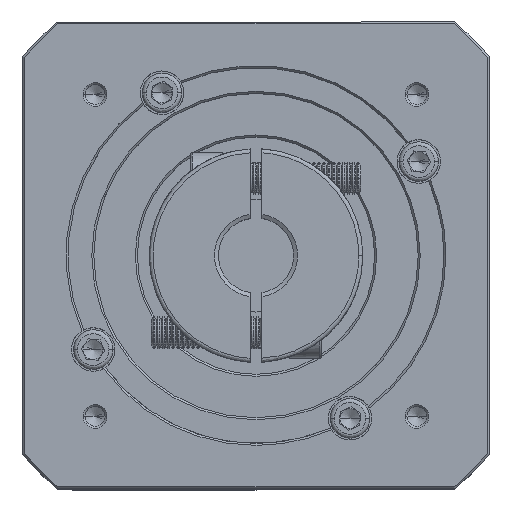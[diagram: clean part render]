
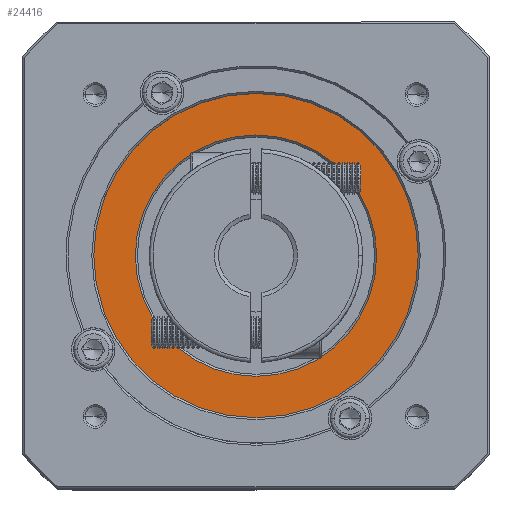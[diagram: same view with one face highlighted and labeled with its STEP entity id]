
A CAD part, top view. The second image highlights one B-rep face of the part: STEP entity #24416.
In plain terms, the highlighted planar face has unit normal (0, 0, 1).
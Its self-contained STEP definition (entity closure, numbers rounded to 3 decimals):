
#65 = CARTESIAN_POINT ( 'NONE',  ( -88.695, 11.107, 122.5 ) ) ;
#847 = ORIENTED_EDGE ( 'NONE', *, *, #28926, .T. ) ;
#4924 = CARTESIAN_POINT ( 'NONE',  ( -27.695, 11.107, 122.5 ) ) ;
#7365 = DIRECTION ( 'NONE',  ( 1., 0., 0. ) ) ;
#7713 = DIRECTION ( 'NONE',  ( 0., 0., 1. ) ) ;
#9160 = DIRECTION ( 'NONE',  ( 0., 0., -1. ) ) ;
#12270 = ORIENTED_EDGE ( 'NONE', *, *, #61012, .T. ) ;
#14102 = PLANE ( 'NONE',  #42824 ) ;
#17156 = AXIS2_PLACEMENT_3D ( 'NONE', #72466, #21864, #7365 ) ;
#19232 = AXIS2_PLACEMENT_3D ( 'NONE', #33677, #7713, #92730 ) ;
#20165 = DIRECTION ( 'NONE',  ( 1., 0., 0. ) ) ;
#21864 = DIRECTION ( 'NONE',  ( 0., 0., -1. ) ) ;
#22762 = CIRCLE ( 'NONE', #19232, 41. ) ;
#24416 = ADVANCED_FACE ( 'NONE', ( #71354, #50305 ), #14102, .T. ) ;
#24929 = EDGE_LOOP ( 'NONE', ( #12270, #847 ) ) ;
#28926 = EDGE_CURVE ( 'NONE', #67181, #108584, #22762, .T. ) ;
#33677 = CARTESIAN_POINT ( 'NONE',  ( -58.195, 11.107, 122.5 ) ) ;
#35511 = CARTESIAN_POINT ( 'NONE',  ( -58.195, 11.107, 122.5 ) ) ;
#38265 = CARTESIAN_POINT ( 'NONE',  ( -58.195, 11.107, 122.5 ) ) ;
#42824 = AXIS2_PLACEMENT_3D ( 'NONE', #38265, #55604, #48287 ) ;
#43861 = AXIS2_PLACEMENT_3D ( 'NONE', #88878, #97043, #20165 ) ;
#43989 = EDGE_CURVE ( 'NONE', #95796, #102234, #80408, .T. ) ;
#47935 = EDGE_LOOP ( 'NONE', ( #94279, #70393 ) ) ;
#48287 = DIRECTION ( 'NONE',  ( 1., 0., 0. ) ) ;
#49867 = AXIS2_PLACEMENT_3D ( 'NONE', #35511, #9160, #85677 ) ;
#50305 = FACE_BOUND ( 'NONE', #47935, .T. ) ;
#55604 = DIRECTION ( 'NONE',  ( 0., 0., 1. ) ) ;
#61012 = EDGE_CURVE ( 'NONE', #108584, #67181, #88225, .T. ) ;
#67181 = VERTEX_POINT ( 'NONE', #96875 ) ;
#70393 = ORIENTED_EDGE ( 'NONE', *, *, #43989, .T. ) ;
#71354 = FACE_OUTER_BOUND ( 'NONE', #24929, .T. ) ;
#72466 = CARTESIAN_POINT ( 'NONE',  ( -58.195, 11.107, 122.5 ) ) ;
#73166 = CIRCLE ( 'NONE', #49867, 30.5 ) ;
#80408 = CIRCLE ( 'NONE', #17156, 30.5 ) ;
#85677 = DIRECTION ( 'NONE',  ( 1., 0., 0. ) ) ;
#88225 = CIRCLE ( 'NONE', #43861, 41. ) ;
#88878 = CARTESIAN_POINT ( 'NONE',  ( -58.195, 11.107, 122.5 ) ) ;
#89588 = CARTESIAN_POINT ( 'NONE',  ( -17.195, 11.107, 122.5 ) ) ;
#92730 = DIRECTION ( 'NONE',  ( 1., 0., 0. ) ) ;
#94279 = ORIENTED_EDGE ( 'NONE', *, *, #95084, .T. ) ;
#95084 = EDGE_CURVE ( 'NONE', #102234, #95796, #73166, .T. ) ;
#95796 = VERTEX_POINT ( 'NONE', #65 ) ;
#96875 = CARTESIAN_POINT ( 'NONE',  ( -99.195, 11.107, 122.5 ) ) ;
#97043 = DIRECTION ( 'NONE',  ( 0., 0., 1. ) ) ;
#102234 = VERTEX_POINT ( 'NONE', #4924 ) ;
#108584 = VERTEX_POINT ( 'NONE', #89588 ) ;
